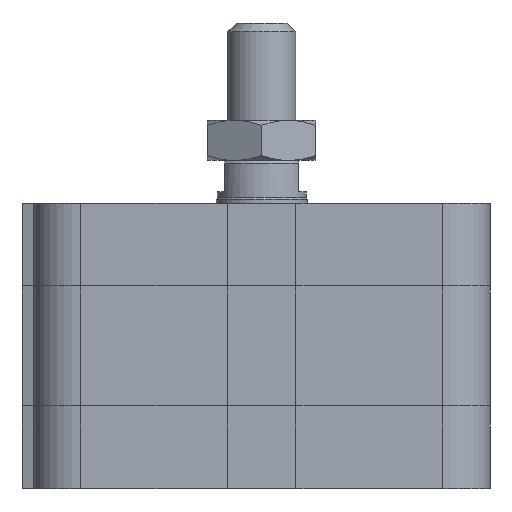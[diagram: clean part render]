
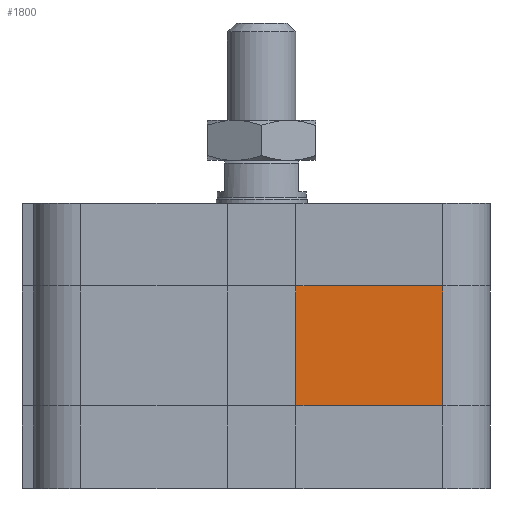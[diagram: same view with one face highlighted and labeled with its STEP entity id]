
A CAD part, left-side view. The second image highlights one B-rep face of the part: STEP entity #1800.
In plain terms, the highlighted planar face has unit normal (-1, 0, 0).
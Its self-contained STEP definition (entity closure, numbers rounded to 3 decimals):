
#1713=CARTESIAN_POINT('',(-40.0,-6.,14.5));
#1714=VERTEX_POINT('',#1713);
#1721=CARTESIAN_POINT('',(-40.0,-6.,35.5));
#1722=VERTEX_POINT('',#1721);
#1723=CARTESIAN_POINT('',(-40.0,-6.,14.5));
#1724=DIRECTION('',(0.0,0.0,1.0));
#1725=VECTOR('',#1724,21.0);
#1726=LINE('',#1723,#1725);
#1727=EDGE_CURVE('',#1714,#1722,#1726,.T.);
#1770=CARTESIAN_POINT('',(-40.,-31.75,0.0));
#1771=DIRECTION('',(-1.0,0.0,0.0));
#1772=DIRECTION('',(0.0,0.0,1.0));
#1773=AXIS2_PLACEMENT_3D('',#1770,#1771,#1772);
#1774=PLANE('',#1773);
#1775=CARTESIAN_POINT('',(-40.,-31.75,14.5));
#1776=VERTEX_POINT('',#1775);
#1777=CARTESIAN_POINT('',(-40.0,-6.0,14.5));
#1778=DIRECTION('',(0.0,-1.0,0.0));
#1779=VECTOR('',#1778,25.75);
#1780=LINE('',#1777,#1779);
#1781=EDGE_CURVE('',#1714,#1776,#1780,.T.);
#1782=ORIENTED_EDGE('',*,*,#1781,.T.);
#1783=CARTESIAN_POINT('',(-40.,-31.75,35.5));
#1784=VERTEX_POINT('',#1783);
#1785=CARTESIAN_POINT('',(-40.,-31.75,14.5));
#1786=DIRECTION('',(0.0,0.0,1.0));
#1787=VECTOR('',#1786,21.0);
#1788=LINE('',#1785,#1787);
#1789=EDGE_CURVE('',#1776,#1784,#1788,.T.);
#1790=ORIENTED_EDGE('',*,*,#1789,.T.);
#1791=CARTESIAN_POINT('',(-40.0,-6.0,35.5));
#1792=DIRECTION('',(0.0,-1.0,0.0));
#1793=VECTOR('',#1792,25.75);
#1794=LINE('',#1791,#1793);
#1795=EDGE_CURVE('',#1722,#1784,#1794,.T.);
#1796=ORIENTED_EDGE('',*,*,#1795,.F.);
#1797=ORIENTED_EDGE('',*,*,#1727,.F.);
#1798=EDGE_LOOP('',(#1782,#1790,#1796,#1797));
#1799=FACE_OUTER_BOUND('',#1798,.T.);
#1800=ADVANCED_FACE('',(#1799),#1774,.T.);
